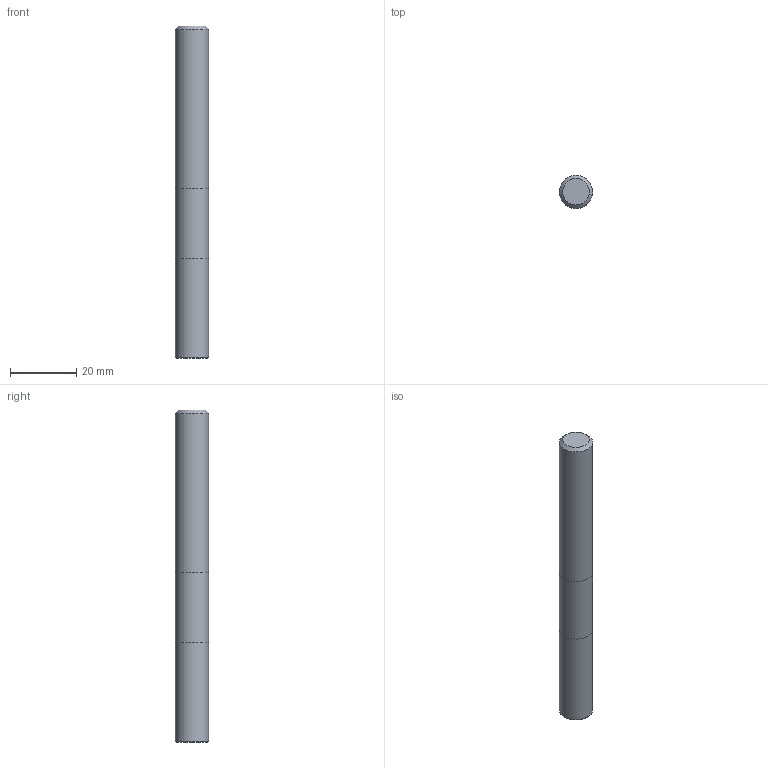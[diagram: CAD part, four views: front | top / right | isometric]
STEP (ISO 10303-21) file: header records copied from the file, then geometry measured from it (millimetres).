
FILE_DESCRIPTION((''),'2;1');
FILE_NAME('C:\Users\nsx150\AppData\Local\Temp\Mastercam 2021\03UJLO2QV3\TEMP.step','2023-09-20T09:30:05',(''),(''),'STEP Write','Mastercam 2021 ... CNC Software, Inc.','');
FILE_SCHEMA(('AUTOMOTIVE_DESIGN'));
Length unit declared in the file: millimetre
Products named in the file (1): None
Bounding box: 10 x 10 x 100 mm (x, y, z)
Volume: 7838.7 mm3; surface area: 3432 mm2
Topology: 2 solids, 2 shells, 9 faces, 12 edges, 7 vertices
Faces by surface type: plane 4, cylinder 3, torus 1, cone 1
Full cylindrical faces by diameter (mm): 10 x3
Entity records: 211 total; most frequent: DIRECTION 36, CARTESIAN_POINT 25, AXIS2_PLACEMENT_3D 18, ORIENTED_EDGE 14, EDGE_LOOP 14, STYLED_ITEM 12, ADVANCED_FACE 9, FACE_BOUND 9
